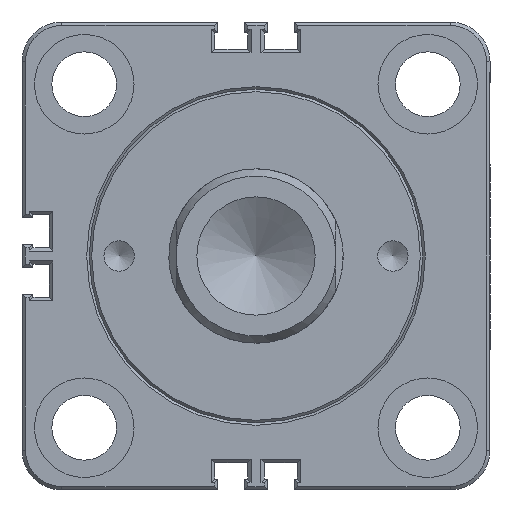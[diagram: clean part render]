
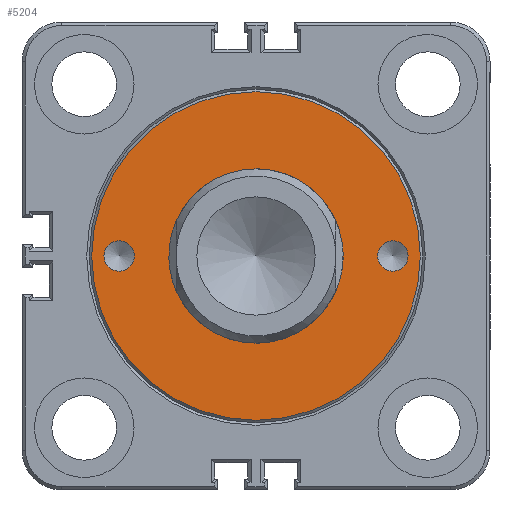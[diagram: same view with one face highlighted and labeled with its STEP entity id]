
A CAD part, front view. The second image highlights one B-rep face of the part: STEP entity #5204.
In plain terms, the highlighted planar face has unit normal (0, -1, 0).
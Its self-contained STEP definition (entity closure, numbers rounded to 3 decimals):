
#977=ORIENTED_EDGE('',*,*,#1932,.T.);
#978=ORIENTED_EDGE('',*,*,#1931,.F.);
#979=ORIENTED_EDGE('',*,*,#1930,.T.);
#980=ORIENTED_EDGE('',*,*,#1945,.T.);
#1930=EDGE_CURVE('',#2427,#2427,#2729,.T.);
#1931=EDGE_CURVE('',#2428,#2428,#2730,.T.);
#1932=EDGE_CURVE('',#2429,#2429,#2731,.T.);
#1945=EDGE_CURVE('',#2436,#2436,#2732,.T.);
#2427=VERTEX_POINT('',#6800);
#2428=VERTEX_POINT('',#6803);
#2429=VERTEX_POINT('',#6806);
#2436=VERTEX_POINT('',#6941);
#2729=CIRCLE('',#5454,3.05);
#2730=CIRCLE('',#5456,17.5);
#2731=CIRCLE('',#5458,3.05);
#2732=CIRCLE('',#5460,33.);
#2816=EDGE_LOOP('',(#977));
#2817=EDGE_LOOP('',(#978));
#2818=EDGE_LOOP('',(#979));
#2819=EDGE_LOOP('',(#980));
#3102=FACE_BOUND('',#2816,.T.);
#3103=FACE_BOUND('',#2817,.T.);
#3104=FACE_BOUND('',#2818,.T.);
#3105=FACE_BOUND('',#2819,.T.);
#3366=PLANE('',#5459);
#5204=ADVANCED_FACE('',(#3102,#3103,#3104,#3105),#3366,.T.);
#5454=AXIS2_PLACEMENT_3D('',#6799,#5796,#5797);
#5456=AXIS2_PLACEMENT_3D('',#6802,#5800,#5801);
#5458=AXIS2_PLACEMENT_3D('',#6805,#5804,#5805);
#5459=AXIS2_PLACEMENT_3D('',#6939,#5812,#5813);
#5460=AXIS2_PLACEMENT_3D('',#6940,#5814,#5815);
#5796=DIRECTION('',(0.,1.,0.));
#5797=DIRECTION('',(0.,0.,-1.));
#5800=DIRECTION('',(0.,-1.,0.));
#5801=DIRECTION('',(1.,0.,0.));
#5804=DIRECTION('',(0.,1.,0.));
#5805=DIRECTION('',(0.,0.,-1.));
#5812=DIRECTION('',(0.,-1.,0.));
#5813=DIRECTION('',(1.,0.,0.));
#5814=DIRECTION('',(0.,-1.,0.));
#5815=DIRECTION('',(0.,0.,-1.));
#6799=CARTESIAN_POINT('',(27.5,0.,0.));
#6800=CARTESIAN_POINT('',(27.5,0.,-3.05));
#6802=CARTESIAN_POINT('',(0.,0.,0.));
#6803=CARTESIAN_POINT('',(17.5,0.,0.));
#6805=CARTESIAN_POINT('',(-27.5,0.,0.));
#6806=CARTESIAN_POINT('',(-27.5,0.,-3.05));
#6939=CARTESIAN_POINT('',(-39.,0.,39.));
#6940=CARTESIAN_POINT('',(0.,0.,0.));
#6941=CARTESIAN_POINT('',(0.,0.,-33.));
